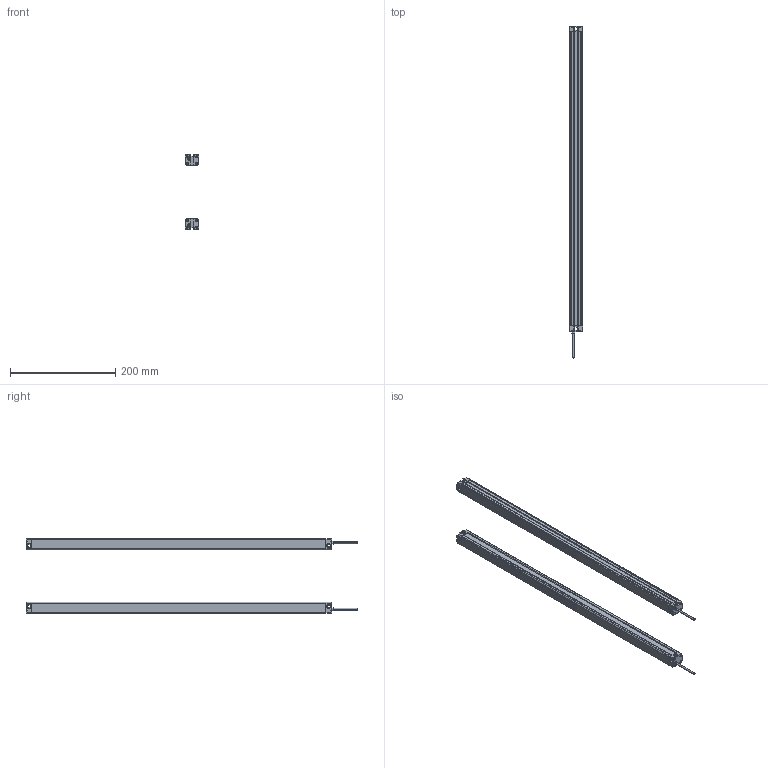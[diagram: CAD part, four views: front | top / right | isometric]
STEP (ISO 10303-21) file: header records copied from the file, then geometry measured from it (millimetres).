
FILE_DESCRIPTION (( 'STEP AP214' ), '1' );
FILE_NAME ('MTC2820.STEP', '2022-08-02T08:59:50', ( '' ), ( '' ), 'SwSTEP 2.0', 'SolidWorks 2018', '' );
FILE_SCHEMA (( 'AUTOMOTIVE_DESIGN' ));
Length unit declared in the file: millimetre
Products named in the file (5): P01^MTC; 噩砃P02^MTC; MTC2820; P02^MTC; MTC waike^MTC
Assembly tree (6 placements, depth 2):
  MTC2820
    MTC waike^MTC  x2
    P01^MTC  x2
    P02^MTC
    噩砃P02^MTC
Bounding box: 25 x 632 x 141.4 mm (x, y, z)
Volume: 196061.7 mm3; surface area: 267152.2 mm2
Topology: 8 solids, 8 shells, 480 faces, 1396 edges, 924 vertices
Faces by surface type: plane 272, cylinder 208
Entity records: 10886 total; most frequent: DIRECTION 1881, CARTESIAN_POINT 1878, ORIENTED_EDGE 1846, EDGE_CURVE 923, AXIS2_PLACEMENT_3D 637, VERTEX_POINT 610, VECTOR 607, LINE 607
